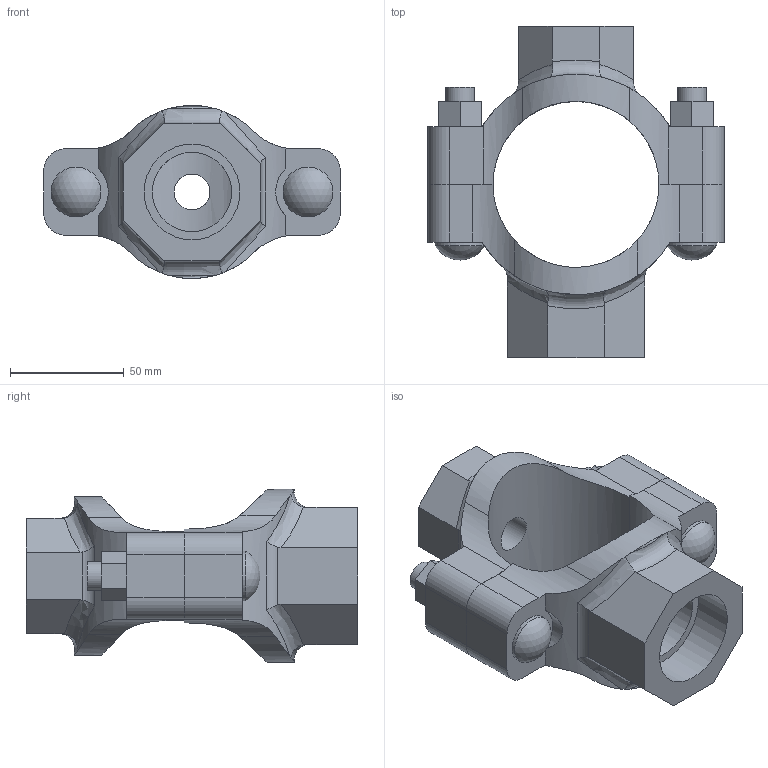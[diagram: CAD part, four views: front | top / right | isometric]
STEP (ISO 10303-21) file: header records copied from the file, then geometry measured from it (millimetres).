
FILE_DESCRIPTION(/* description */ ('VIC MECH-T BRANCH OUTLET CROSS STYLE 920N (THD)','CAx-IF Rec.Pracs.---Representation and Presentation of Product Manufacturing Information (PMI)---4.0---2014-10-13'),/* implementation_level */ '2;1');
FILE_NAME(/* name */ 'C:\Users\Vjadhav\AppData\Roaming\Autodesk\ApplicationPlugins\Back Up\Victaulic_IPS_Mechanical-Cross Outlet_Style 920N (FPT)\Victaulic_IPS_Mechanical-Cross Outlet_02.5x0.5x01.25 (65x15x32).stp',/* time_stamp */ '2020-08-06T18:56:26+05:00',/* author */ ('Vjadhav'),/* organization */ ('Victaulic'),/* preprocessor_version */ 'ST-DEVELOPER v17.2',/* originating_system */ 'Autodesk Inventor 2019',/* authorisation */ '');
FILE_SCHEMA (('AP242_MANAGED_MODEL_BASED_3D_ENGINEERING_MIM_LF { 1 0 10303 442 1 1 4 }'));
Length unit declared in the file: inch
Products named in the file (3): 920NT-02.5x0.5x01.25; 920NT-02.5x0.5; 920NT-02.5x01.25
Assembly tree (2 placements, depth 2):
  920NT-02.5x0.5x01.25
    920NT-02.5x0.5
    920NT-02.5x01.25
Bounding box: 130.56 x 145.8 x 76.2 mm (x, y, z)
Volume: 322346.4 mm3; surface area: 72095.4 mm2
Topology: 2 solids, 2 shells, 135 faces, 362 edges, 244 vertices
Faces by surface type: plane 68, cylinder 53, bspline 8, torus 4, sphere 2
Full cylindrical faces by diameter (mm): 12.7 x4, 15.799 x1, 21.336 x1, 21.982 x2, 34.925 x1, 42.164 x1
Entity records: 5247 total; most frequent: CARTESIAN_POINT 1656, ORIENTED_EDGE 724, DIRECTION 654, EDGE_CURVE 362, VERTEX_POINT 244, AXIS2_PLACEMENT_3D 234, LINE 186, VECTOR 186
